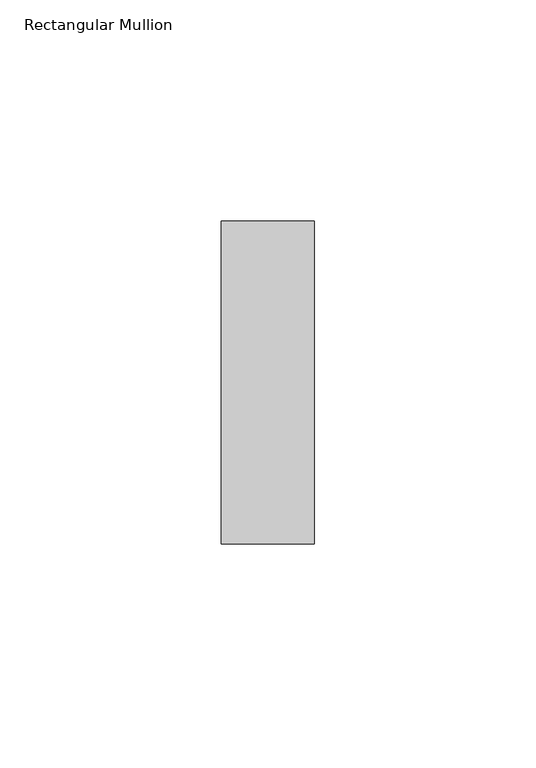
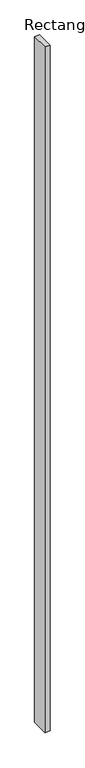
"""IFC4 building model written with IfcOpenShell, lengths in millimetres: member geometry, Rectangular Mullion : RSen_21_CWM_support profile - 21x73_gen_duco projects."""

from ifc_helpers import new_model, si_unit, frame, origin, place, context, project, spatial, polyline, outline, extrude, source, transform, mapped, element, save


def rectangular_mullion_9de2c187(model_context):
    return source(origin(), model_context, "Body", "SweptSolid", [
        extrude(outline(polyline([(10.5, 1.0), (10.5, -72.0), (-10.5, -72.0), (-10.5, 1.0), (10.5, 1.0)])), frame((0.0, 0.0, -3000.0), z_axis=(0.0, 0.0, 1.0), x_axis=(1.0, 0.0, 0.0)), (0.0, 0.0, 1.0), 3000.0),
    ])


if __name__ == "__main__":
    model = new_model("IFC4")
    model_context = context("Model", 3, world=origin())
    ifc_project = project(units=[si_unit("LENGTHUNIT", "METRE", prefix="MILLI")], contexts=[model_context])
    site = spatial("IfcSite", under=ifc_project)
    building = spatial("IfcBuilding", under=site)
    placement = place(None, origin())
    rectangular_mullion_shape = rectangular_mullion_9de2c187(model_context)
    element("IfcMember", 1, ObjectType="Rectangular Mullion : RSen_21_CWM_support profile - 21x73_gen_duco projects", at=placement, inside=building, context=model_context, shape_type="MappedRepresentation", body=[
        mapped(rectangular_mullion_shape, transform((0.0, 0.0, 0.0), x_axis=(1.0, 0.0, 0.0), y_axis=(0.0, 1.0, 0.0), z_axis=(0.0, 0.0, 1.0))),
    ])
    save(model, "model.ifc")
